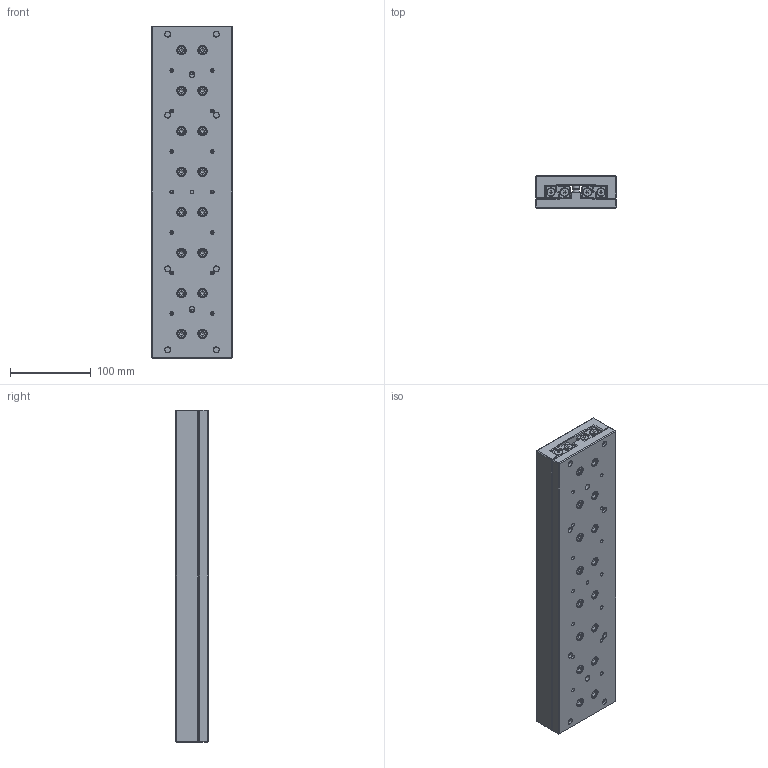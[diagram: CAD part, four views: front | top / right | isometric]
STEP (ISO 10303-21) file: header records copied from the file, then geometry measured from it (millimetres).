
FILE_DESCRIPTION(/* description */ ('Tavola TRL06 L=410 mm'),/* implementation_level */ '2;1');
FILE_NAME(/* name */ 'TRL060410-00.stp',/* time_stamp */ '2024-02-07T09:04:14+01:00',/* author */ ('Rosa sistemi'),/* organization */ (''),/* preprocessor_version */ 'ST-DEVELOPER v20',/* originating_system */ 'Autodesk Inventor 2024',/* authorisation */ '');
FILE_SCHEMA (('AUTOMOTIVE_DESIGN { 1 0 10303 214 3 1 1 }'));
Products named in the file (2): TRL060410-00; TRL060410-00_1
Assembly tree (1 placements, depth 2):
  TRL060410-00
    TRL060410-00_1
Bounding box: 100 x 40 x 410 mm (x, y, z)
Volume: 1470229.7 mm3; surface area: 300750.9 mm2
Topology: 18 solids, 18 shells, 2237 faces, 5871 edges, 3832 vertices
Faces by surface type: plane 1374, cylinder 325, cone 275, bspline 196, torus 67
Full cylindrical faces by diameter (mm): 1.548 x5, 4.134 x47, 4.256 x5, 6 x36, 7 x10, 8.5 x3, 9.5 x32, 9.64 x8, 10 x32, 11 x38
Entity records: 70866 total; most frequent: CARTESIAN_POINT 15314, ORIENTED_EDGE 11640, DIRECTION 10512, EDGE_CURVE 5820, VERTEX_POINT 3832, LINE 3566, VECTOR 3566, AXIS2_PLACEMENT_3D 3473
